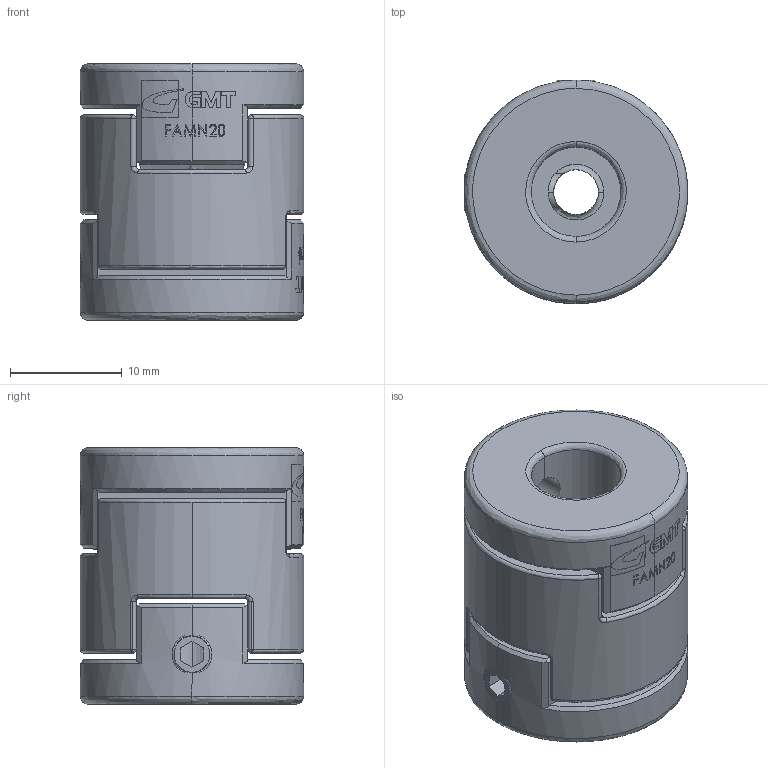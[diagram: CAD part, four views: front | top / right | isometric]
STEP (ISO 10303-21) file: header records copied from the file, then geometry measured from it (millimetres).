
FILE_DESCRIPTION (( 'STEP AP203' ), '1' );
FILE_NAME ('FAMN20.STEP', '2008-04-05T06:55:09', ( '陳志豪' ), ( '高明鐵企業股份有限公司' ), 'SwSTEP 2.0', 'SolidWorks 2007', '' );
FILE_SCHEMA (( 'CONFIG_CONTROL_DESIGN' ));
Length unit declared in the file: millimetre
Products named in the file (1): FAMN20
Bounding box: 20 x 20 x 23 mm (x, y, z)
Surface area: 3706.8 mm2 (no closed solid volume)
Topology: 0 solids, 5 shells, 339 faces, 956 edges, 622 vertices
Faces by surface type: bspline 135, plane 121, cylinder 64, cone 19
Entity records: 16950 total; most frequent: CARTESIAN_POINT 9519, ORIENTED_EDGE 1825, DIRECTION 978, EDGE_CURVE 944, VERTEX_POINT 622, B_SPLINE_CURVE_WITH_KNOTS 496, EDGE_LOOP 371, ADVANCED_FACE 339
